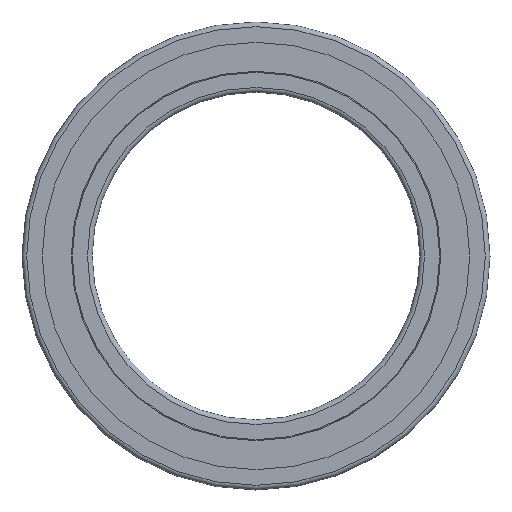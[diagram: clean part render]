
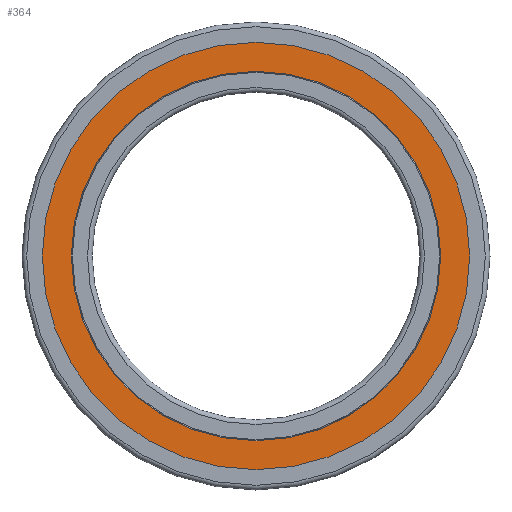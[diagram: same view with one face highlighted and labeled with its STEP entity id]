
A CAD part, left-side view. The second image highlights one B-rep face of the part: STEP entity #364.
In plain terms, the highlighted planar face has unit normal (-1, 0, 0).
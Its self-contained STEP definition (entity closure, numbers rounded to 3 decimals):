
#300=PLANE('',#1342);
#364=ADVANCED_FACE('',(#475,#476),#300,.F.);
#475=FACE_BOUND('',#699,.T.);
#476=FACE_BOUND('',#700,.T.);
#699=EDGE_LOOP('',(#891));
#700=EDGE_LOOP('',(#892));
#891=ORIENTED_EDGE('',*,*,#1203,.F.);
#892=ORIENTED_EDGE('',*,*,#1201,.T.);
#1073=VERTEX_POINT('',#1734);
#1075=VERTEX_POINT('',#1739);
#1201=EDGE_CURVE('',#1073,#1073,#1297,.T.);
#1203=EDGE_CURVE('',#1075,#1075,#1299,.T.);
#1297=CIRCLE('',#1338,45.65);
#1299=CIRCLE('',#1341,39.45);
#1338=AXIS2_PLACEMENT_3D('',#1733,#1484,#1485);
#1341=AXIS2_PLACEMENT_3D('',#1738,#1490,#1491);
#1342=AXIS2_PLACEMENT_3D('',#1740,#1492,#1493);
#1484=DIRECTION('',(-1.,0.,0.));
#1485=DIRECTION('',(0.,0.,1.));
#1490=DIRECTION('',(-1.,0.,0.));
#1491=DIRECTION('',(0.,0.,1.));
#1492=DIRECTION('',(1.,0.,0.));
#1493=DIRECTION('',(0.,0.,-1.));
#1733=CARTESIAN_POINT('',(0.1,0.,0.));
#1734=CARTESIAN_POINT('',(0.1,0.,45.65));
#1738=CARTESIAN_POINT('',(0.1,0.,0.));
#1739=CARTESIAN_POINT('',(0.1,0.,39.45));
#1740=CARTESIAN_POINT('',(0.1,0.,45.65));
